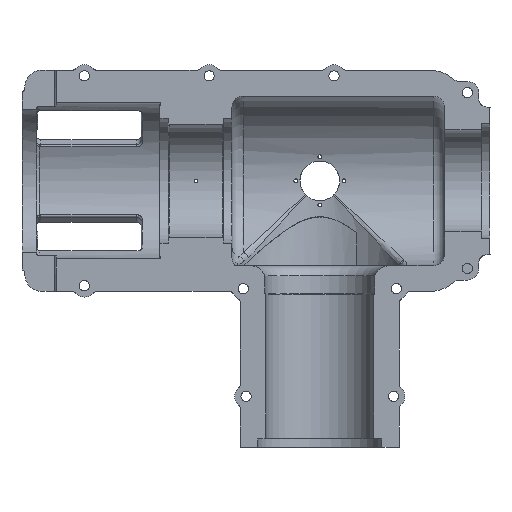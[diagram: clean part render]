
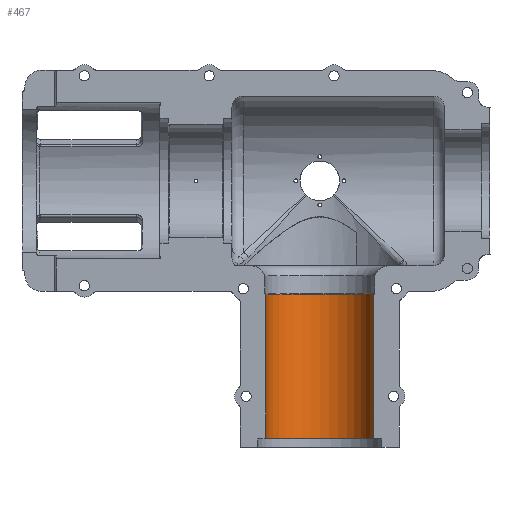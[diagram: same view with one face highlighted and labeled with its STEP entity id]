
A CAD part, front view. The second image highlights one B-rep face of the part: STEP entity #467.
In plain terms, the highlighted cylindrical face has radius 95 mm (diameter 190 mm), a partial arc.
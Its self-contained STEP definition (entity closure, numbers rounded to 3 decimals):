
#467=ADVANCED_FACE('',(#4226),#4228,.F.);
#4226=FACE_BOUND('',#4227,.T.);
#4227=EDGE_LOOP('',(#13059,#13060,#13061,#13062));
#4228=CYLINDRICAL_SURFACE('',#4229,95.);
#4229=AXIS2_PLACEMENT_3D('',#4230,#4231,#4232);
#4230=CARTESIAN_POINT('',(0.,0.,-161.06));
#4231=DIRECTION('',(0.,0.,-1.));
#4232=DIRECTION('',(-1.,0.,0.));
#13059=ORIENTED_EDGE('',*,*,#14516,.F.);
#13060=ORIENTED_EDGE('',*,*,#14514,.F.);
#13061=ORIENTED_EDGE('',*,*,#14290,.F.);
#13062=ORIENTED_EDGE('',*,*,#14418,.F.);
#14290=EDGE_CURVE('',#15077,#15078,#15079,.F.);
#14418=EDGE_CURVE('',#15327,#15077,#15329,.F.);
#14514=EDGE_CURVE('',#15078,#15490,#15491,.T.);
#14516=EDGE_CURVE('',#15490,#15327,#15493,.T.);
#15077=VERTEX_POINT('',#16596);
#15078=VERTEX_POINT('',#16597);
#15079=LINE('',#16598,#16599);
#15327=VERTEX_POINT('',#17998);
#15329=CIRCLE('',#18006,95.);
#15490=VERTEX_POINT('',#18704);
#15491=CIRCLE('',#18705,95.);
#15493=LINE('',#18754,#18755);
#16596=CARTESIAN_POINT('',(-94.995,1.,-453.591));
#16597=CARTESIAN_POINT('',(-94.995,1.,-200.));
#16598=CARTESIAN_POINT('',(-94.995,1.,-200.));
#16599=VECTOR('',#16600,1.);
#16600=DIRECTION('',(0.,0.,-1.));
#17998=CARTESIAN_POINT('',(94.995,1.,-453.591));
#18006=AXIS2_PLACEMENT_3D('',#18007,#18008,#18009);
#18007=CARTESIAN_POINT('',(0.,0.,-453.591));
#18008=DIRECTION('',(0.,0.,-1.));
#18009=DIRECTION('',(-1.,0.011,0.));
#18704=CARTESIAN_POINT('',(94.995,1.,-200.));
#18705=AXIS2_PLACEMENT_3D('',#18706,#18707,#18708);
#18706=CARTESIAN_POINT('',(0.,0.,-200.));
#18707=DIRECTION('',(0.,0.,-1.));
#18708=DIRECTION('',(-1.,0.011,0.));
#18754=CARTESIAN_POINT('',(94.995,1.,-200.));
#18755=VECTOR('',#18756,1.);
#18756=DIRECTION('',(0.,0.,-1.));
